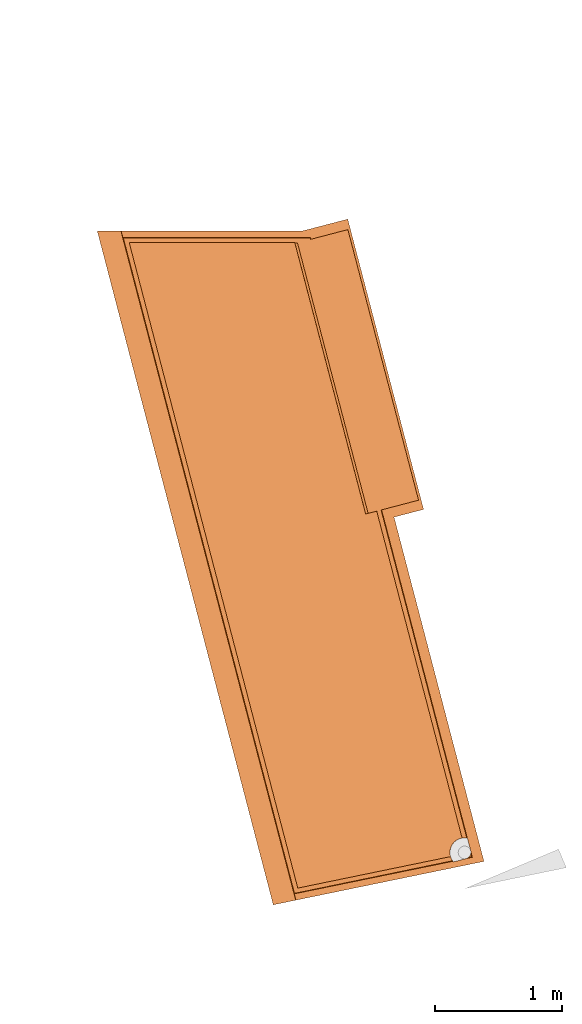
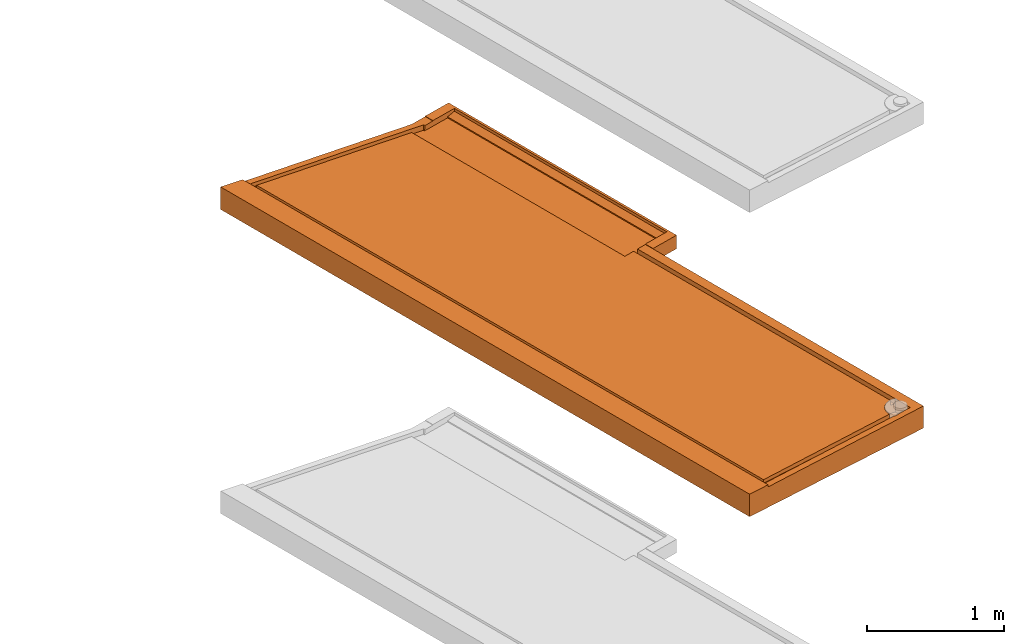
# One storey, part 20 of 31: 1 proxy, 1 element without a shape of its own.
"""IFC2X3 building model written with IfcOpenShell, lengths in centimetres."""

import ifcopenshell
import ifcopenshell.guid

model = None  # the IFC model being written
_history = None  # IfcOwnerHistory: only IFC2X3 demands one
_inside = {}  # id of a spatial element -> (the spatial element, [elements in it])
_under = {}  # id of a project, library or spatial element -> (it, [spatial elements below it])
_declared = {}  # id of a project -> (the project, [libraries it declares])
_typed = {}  # id of a type object -> (the type object, [elements of that type])
_made_of = {}  # id of a material, layer set ... -> (it, [elements and type objects made of it])


def new_model(schema):
    """Start an empty IFC model of exactly this schema.

    Asked for "IFC4X3", IfcOpenShell would pick the latest addendum, in which some entities
    have other attributes; the version numbers below select the first issue.
    IFC2X3 requires an IfcOwnerHistory on every rooted entity: one is made here for all.
    """
    global model, _history
    if schema == "IFC4X3":
        model = ifcopenshell.file(schema_version=(4, 3, 0, 0))
    else:
        model = ifcopenshell.file(schema=schema)
    _inside.clear()
    _under.clear()
    _declared.clear()
    _typed.clear()
    _made_of.clear()
    _history = None
    if model.schema == "IFC2X3":
        org = make("IfcOrganization", Name="unknown")
        user = make(
            "IfcPersonAndOrganization",
            ThePerson=make("IfcPerson", FamilyName="unknown"),
            TheOrganization=org,
        )
        app = make(
            "IfcApplication",
            ApplicationDeveloper=org,
            Version="unknown",
            ApplicationFullName="unknown",
            ApplicationIdentifier="unknown",
        )
        _history = make(
            "IfcOwnerHistory",
            OwningUser=user,
            OwningApplication=app,
            ChangeAction="ADDED",
            CreationDate=0,
        )
    return model


def make(cls, **values):
    """One entity of the class cls with the attributes given. An attribute that is None is left unset."""
    return model.create_entity(
        cls, **{name: value for name, value in values.items() if value is not None}
    )


def entity(cls, *values):
    """Any entity or typed value of the class cls, its attributes in the order of the schema. None: left unset."""
    e = model.create_entity(cls)
    for i, value in enumerate(values):
        if value is not None:
            e[i] = value
    return e


def rooted(cls, **values):
    """An entity with a GlobalId (a new one), such as an element, a storey or a relation."""
    return make(cls, GlobalId=ifcopenshell.guid.new(), OwnerHistory=_history, **values)


def si_unit(unit_type, name, prefix=None):
    """IfcSIUnit, for example si_unit("LENGTHUNIT", "METRE", prefix="MILLI")."""
    return make("IfcSIUnit", UnitType=unit_type, Prefix=prefix, Name=name)


def converted_unit(unit_type, name, factor, base, dimensions=None, offset=None):
    """IfcConversionBasedUnit, such as the inch: factor (a typed value) times the base unit."""
    return make(
        "IfcConversionBasedUnit"
        if offset is None
        else "IfcConversionBasedUnitWithOffset",
        ConversionOffset=offset,
        Dimensions=None
        if dimensions is None
        else entity("IfcDimensionalExponents", *dimensions),
        UnitType=unit_type,
        Name=name,
        ConversionFactor=make(
            "IfcMeasureWithUnit", ValueComponent=factor, UnitComponent=base
        ),
    )


def derived_unit(unit_type, elements):
    """IfcDerivedUnit: a product of units, each with its exponent."""
    return make(
        "IfcDerivedUnit",
        Elements=[
            make("IfcDerivedUnitElement", Unit=unit, Exponent=power)
            for unit, power in elements
        ],
        UnitType=unit_type,
    )


def assignment(units):
    """IfcUnitAssignment: the units of a project."""
    return None if units is None else make("IfcUnitAssignment", Units=units)


def point(xyz):
    """IfcCartesianPoint."""
    return None if xyz is None else make("IfcCartesianPoint", Coordinates=xyz)


def direction(xyz):
    """IfcDirection."""
    return None if xyz is None else make("IfcDirection", DirectionRatios=xyz)


def frame(location, z_axis=None, x_axis=None):
    """IfcAxis2Placement3D, a coordinate frame: its origin and axes. An axis left out is left unset."""
    return make(
        "IfcAxis2Placement3D",
        Location=point(location),
        Axis=direction(z_axis),
        RefDirection=direction(x_axis),
    )


def origin():
    """The frame at (0, 0, 0) with its axes left unset."""
    return frame((0.0, 0.0, 0.0))


def place(relative_to, where):
    """IfcLocalPlacement: puts the frame where relative to a parent placement (None: the world)."""
    return make(
        "IfcLocalPlacement", PlacementRelTo=relative_to, RelativePlacement=where
    )


def context(
    kind, dimensions, precision=None, world=None, true_north=None, identifier=None
):
    """IfcGeometricRepresentationContext, for example the 3D "Model" context."""
    return make(
        "IfcGeometricRepresentationContext",
        ContextIdentifier=identifier,
        ContextType=kind,
        CoordinateSpaceDimension=dimensions,
        Precision=precision,
        WorldCoordinateSystem=world,
        TrueNorth=true_north,
    )


def subcontext(parent, identifier, kind, view, scale=None):
    """IfcGeometricRepresentationSubContext, for example "Body" below "Model"."""
    return make(
        "IfcGeometricRepresentationSubContext",
        ContextIdentifier=identifier,
        ContextType=kind,
        ParentContext=parent,
        TargetScale=scale,
        TargetView=view,
    )


def project(units=None, contexts=None):
    """IfcProject with its units and contexts."""
    return rooted(
        "IfcProject",
        Name="project",
        RepresentationContexts=contexts,
        UnitsInContext=assignment(units),
    )


def spatial(cls, under=None, at=None, **own):
    """A site, building, storey or space (cls), placed at a placement, below another one or the project."""
    s = rooted(cls, ObjectPlacement=at, **own)
    if under is not None:
        _under.setdefault(under.id(), (under, []))[1].append(s)
    return s


def faces_of(points, faces, orient=None, outer=None):
    """IfcFace entities. A face is a list of loops; a loop is a list of indices into points, from 0.

    orient and outer hold one flag for each loop. By default every Orientation is true, the
    first loop of a face is its IfcFaceOuterBound and the others are IfcFaceBound.
    """
    made = []
    for i, loops in enumerate(faces):
        bounds = []
        for j, loop in enumerate(loops):
            is_outer = j == 0 if outer is None else outer[i][j]
            bounds.append(
                make(
                    "IfcFaceOuterBound" if is_outer else "IfcFaceBound",
                    Bound=make("IfcPolyLoop", Polygon=[points[k] for k in loop]),
                    Orientation=True if orient is None else orient[i][j],
                )
            )
        made.append(make("IfcFace", Bounds=bounds))
    return made


def faceted_brep(points, faces, orient=None, outer=None, voids=None):
    """IfcFacetedBrep: a solid bounded by flat faces; with voids (closed shells), ...WithVoids."""
    shared = [point(p) for p in points]
    hull = make("IfcClosedShell", CfsFaces=faces_of(shared, faces, orient, outer))
    if voids is None:
        return make("IfcFacetedBrep", Outer=hull)
    return make(
        "IfcFacetedBrepWithVoids",
        Outer=hull,
        Voids=[
            make(cls, CfsFaces=faces_of(shared, fs, o, b)) for cls, fs, o, b in voids
        ],
    )


def shape(context_of_items, identifier, shape_type, items):
    """IfcShapeRepresentation: the items that make up one representation, for example the "Body"."""
    return make(
        "IfcShapeRepresentation",
        ContextOfItems=context_of_items,
        RepresentationIdentifier=identifier,
        RepresentationType=shape_type,
        Items=items,
    )


def source(mapping_origin, context_of_items, identifier, shape_type, items):
    """IfcRepresentationMap: a shape defined once, which mapped items show again and again."""
    return make(
        "IfcRepresentationMap",
        MappingOrigin=mapping_origin,
        MappedRepresentation=shape(context_of_items, identifier, shape_type, items),
    )


def transform(
    local_origin,
    x_axis=None,
    y_axis=None,
    z_axis=None,
    scale=None,
    scale2=None,
    scale3=None,
    uniform=True,
):
    """IfcCartesianTransformationOperator3D, or its non-uniform kind. x_axis, y_axis, z_axis: its Axis1, 2, 3."""
    if uniform:
        return make(
            "IfcCartesianTransformationOperator3D",
            Axis1=direction(x_axis),
            Axis2=direction(y_axis),
            LocalOrigin=point(local_origin),
            Scale=scale,
            Axis3=direction(z_axis),
        )
    return make(
        "IfcCartesianTransformationOperator3DnonUniform",
        Axis1=direction(x_axis),
        Axis2=direction(y_axis),
        LocalOrigin=point(local_origin),
        Scale=scale,
        Axis3=direction(z_axis),
        Scale2=scale2,
        Scale3=scale3,
    )


def mapped(mapping_source, mapping_target):
    """IfcMappedItem: shows the shape of a source again, moved by a transform."""
    return make(
        "IfcMappedItem", MappingSource=mapping_source, MappingTarget=mapping_target
    )


def material(Name=None, Category=None):
    """IfcMaterial."""
    return make("IfcMaterial", Name=Name, Category=Category)


def made_of(thing, what):
    """Note that an element or type object is made of a material, layer set ...; save() writes the relation."""
    if what is not None:
        _made_of.setdefault(what.id(), (what, []))[1].append(thing)
    return thing


def type_object(cls, material=None, **own):
    """A type object (cls), such as IfcWallType, which elements share."""
    return made_of(rooted(cls, **own), material)


def type_shapes(of_type, sources):
    """Give a type object the sources (RepresentationMaps) that its elements show as mapped items."""
    of_type.RepresentationMaps = sources


def element(
    cls,
    number,
    at=None,
    inside=None,
    cuts=None,
    type_object=None,
    material=None,
    context=None,
    identifier="Body",
    shape_type=None,
    held_by="IfcProductDefinitionShape",
    body=None,
    shapes=None,
    **own,
):
    """One element of the class cls, such as IfcWall. Its Tag is "e" and its number.

    at: its placement. inside: the storey or other place that contains it. cuts: it is an
    opening in that element (IfcRelVoidsElement). A single representation is given by context,
    identifier, shape_type and body (its items); several are given by shapes. held_by: the class
    of the entity that holds the representations. save() writes the other relations.
    """
    e = rooted(cls, Tag="e%d" % number, ObjectPlacement=at, **own)
    if body is not None:
        shapes = [shape(context, identifier, shape_type, body)]
    if shapes is not None:
        e.Representation = make(held_by, Representations=shapes)
    if inside is not None:
        _inside.setdefault(inside.id(), (inside, []))[1].append(e)
    if cuts is not None:
        rooted(
            "IfcRelVoidsElement", RelatingBuildingElement=cuts, RelatedOpeningElement=e
        )
    if type_object is not None:
        _typed.setdefault(type_object.id(), (type_object, []))[1].append(e)
    return made_of(e, material)


def aggregate(whole, parts):
    """IfcRelAggregates: a whole, such as a stair, and the parts it consists of."""
    return rooted("IfcRelAggregates", RelatingObject=whole, RelatedObjects=parts)


def save(model, path):
    """Write the relations noted so far, then the file.

    IfcRelAggregates (storeys below a building ...), IfcRelContainedInSpatialStructure (elements
    in a storey), IfcRelDefinesByType, IfcRelAssociatesMaterial and IfcRelDeclares: one each for
    every whole, place, type object, material and project.
    """
    for whole, parts in _under.values():
        aggregate(whole, parts)
    for where, things in _inside.values():
        rooted(
            "IfcRelContainedInSpatialStructure",
            RelatedElements=things,
            RelatingStructure=where,
        )
    for kind, things in _typed.values():
        rooted("IfcRelDefinesByType", RelatedObjects=things, RelatingType=kind)
    for what, things in _made_of.values():
        rooted("IfcRelAssociatesMaterial", RelatedObjects=things, RelatingMaterial=what)
    for by, libraries in _declared.values():
        rooted("IfcRelDeclares", RelatingContext=by, RelatedDefinitions=libraries)
    model.write(path)


model = new_model("IFC2X3")

# Units and contexts
model_context = context("Model", 3, precision=0.001, world=origin(), true_north=direction((6.12303176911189e-17, 1.0)))
body_context = subcontext(model_context, "Body", "Model", "MODEL_VIEW")
ifc_project = project(units=[si_unit("LENGTHUNIT", "METRE", prefix="CENTI"), si_unit("AREAUNIT", "SQUARE_METRE"), si_unit("VOLUMEUNIT", "CUBIC_METRE"), converted_unit("PLANEANGLEUNIT", "DEGREE", entity("IfcRatioMeasure", 0.0174532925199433), si_unit("PLANEANGLEUNIT", "RADIAN"), dimensions=[0, 0, 0, 0, 0, 0, 0]), si_unit("MASSUNIT", "GRAM", prefix="KILO"), derived_unit("MASSDENSITYUNIT", [(si_unit("MASSUNIT", "GRAM", prefix="KILO"), 1), (si_unit("LENGTHUNIT", "METRE"), -3)]), si_unit("TIMEUNIT", "SECOND"), si_unit("FREQUENCYUNIT", "HERTZ"), si_unit("THERMODYNAMICTEMPERATUREUNIT", "DEGREE_CELSIUS"), derived_unit("THERMALTRANSMITTANCEUNIT", [(si_unit("MASSUNIT", "GRAM", prefix="KILO"), 1), (si_unit("THERMODYNAMICTEMPERATUREUNIT", "KELVIN"), -1), (si_unit("TIMEUNIT", "SECOND"), -3)]), derived_unit("VOLUMETRICFLOWRATEUNIT", [(si_unit("LENGTHUNIT", "METRE"), 3), (si_unit("TIMEUNIT", "SECOND"), -1)]), si_unit("ELECTRICCURRENTUNIT", "AMPERE"), si_unit("ELECTRICVOLTAGEUNIT", "VOLT"), si_unit("POWERUNIT", "WATT"), si_unit("FORCEUNIT", "NEWTON"), si_unit("ILLUMINANCEUNIT", "LUX"), si_unit("LUMINOUSFLUXUNIT", "LUMEN"), si_unit("LUMINOUSINTENSITYUNIT", "CANDELA"), derived_unit("USERDEFINED", [(si_unit("MASSUNIT", "GRAM", prefix="KILO"), -1), (si_unit("LENGTHUNIT", "METRE"), -2), (si_unit("TIMEUNIT", "SECOND"), 3), (si_unit("LUMINOUSFLUXUNIT", "LUMEN"), 1)]), derived_unit("LINEARVELOCITYUNIT", [(si_unit("LENGTHUNIT", "METRE"), 1), (si_unit("TIMEUNIT", "SECOND"), -1)]), si_unit("PRESSUREUNIT", "PASCAL"), derived_unit("USERDEFINED", [(si_unit("LENGTHUNIT", "METRE"), -2), (si_unit("MASSUNIT", "GRAM", prefix="KILO"), 1), (si_unit("TIMEUNIT", "SECOND"), -2)])], contexts=[model_context])

# Site, building, storey
site_placement = place(None, origin())
site = spatial("IfcSite", under=ifc_project, at=site_placement, Name="Default", CompositionType="ELEMENT")
building_placement = place(site_placement, origin())
building = spatial("IfcBuilding", under=site, at=building_placement, Name="CAGE 03", CompositionType="ELEMENT")
storey_placement = place(building_placement, frame((0.0, 0.0, -400.0)))
storey = spatial("IfcBuildingStorey", under=building, at=storey_placement, Name="±0.00", CompositionType="ELEMENT", Elevation=-400.0)

# Assembly, proxy
assembly_placement = place(storey_placement, origin())
assembly = element("IfcElementAssembly", 1, at=assembly_placement, inside=storey, Name="Assemblage Modèles génériques:BALCON TYPE 08", ObjectType="Assemblage Modèles génériques:BALCON TYPE 08", AssemblyPlace="NOTDEFINED", PredefinedType="USERDEFINED")
ifc_material = material(Name="Béton, panneaux préfa 30/37")
building_element_proxy_type = type_object("IfcBuildingElementProxyType", Name="balcon préfa type 08", PredefinedType="NOTDEFINED", material=ifc_material)
shared_shape = source(origin(), body_context, "Body", "Brep", [
    faceted_brep([(20.4758153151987, 524.485602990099, 15.0), (155.098310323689, 8.99505016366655, 15.0), (279.438582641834, 34.6220777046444, 15.0), (278.50602837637, 36.2117170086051, 15.0), (277.839385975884, 37.9299132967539, 15.0), (157.690873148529, 13.1668241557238, 15.0), (25.0882306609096, 520.923046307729, 15.0), (155.314060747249, 520.923046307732, 15.0), (155.482713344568, 520.277249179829, 15.0), (157.417813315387, 520.78260855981, 15.0), (213.007345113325, 307.921611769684, 15.0), (219.780195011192, 309.690369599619, 15.0), (286.932279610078, 52.5545528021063, 15.0), (288.768321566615, 52.7168337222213, 15.0), (290.606706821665, 52.5836991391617, 15.0), (223.22714667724, 310.590555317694, 15.0), (245.904044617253, 316.512721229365, 15.0), (190.314512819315, 529.373718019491, 15.0), (167.637614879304, 523.45155210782, 15.0), (167.367568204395, 524.485602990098, 15.0), (293.790835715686, 40.3911724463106, 15.0), (293.414285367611, 39.1546032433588, 15.0), (292.733315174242, 38.0558889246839, 15.0), (291.793438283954, 37.1684628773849, 15.0), (294.487454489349, 37.7237103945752, 15.0), (155.508647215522, 520.284021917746, 16.9000788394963), (155.484457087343, 520.277704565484, 19.3999538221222), (211.073988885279, 307.416707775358, 19.3999538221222), (211.09817901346, 307.42302512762, 16.9000788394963), (245.904044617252, 316.512721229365, 15.9713250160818), (223.610570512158, 310.690688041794, 19.5295380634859), (229.455694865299, 312.217166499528, 19.589956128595), (231.390794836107, 312.722525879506, 19.6099582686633), (231.390794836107, 312.722525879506, 20.0), (252.676894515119, 318.2814790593, 20.0), (252.676894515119, 318.2814790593, 17.4999999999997), (219.78019501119, 309.690369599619, 19.4899454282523), (213.007345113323, 307.921611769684, 16.9198129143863), (197.087362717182, 531.142475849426, 17.4999999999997), (197.087362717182, 531.142475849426, 20.0), (175.801263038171, 525.583522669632, 20.0), (175.801263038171, 525.583522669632, 19.6099582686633), (173.866163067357, 525.078163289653, 19.5899561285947), (168.021038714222, 523.551684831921, 19.5295380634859), (190.314512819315, 529.373718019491, 15.9713250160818), (157.690873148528, 13.1668241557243, 18.1398009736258), (277.83938597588, 37.9299132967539, 19.3650002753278), (291.500713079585, 36.9717037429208, 16.5272701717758), (291.194845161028, 36.7960705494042, 17.7877166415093), (290.877356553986, 36.6424372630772, 18.7750673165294), (290.549827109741, 36.5115683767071, 19.4844090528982), (294.976378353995, 37.4198670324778, 19.5295380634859), (154.900847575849, 8.67730667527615, 18.1014578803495), (279.685784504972, 34.2823396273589, 19.3736493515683), (279.560631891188, 34.4510796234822, 17.1958838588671), (3.88407743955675, 526.923046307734, 0.0), (3.88407743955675, 526.923046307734, 1.0), (140.574776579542, 3.51301694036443, 1.0), (140.574776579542, 3.51301694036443, 0.0), (5.1787699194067, 525.923046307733, 1.46630765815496), (141.302501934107, 4.68402258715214, 1.46630765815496), (157.417813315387, 520.78260855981, 16.9198129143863), (20.1245103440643, 524.756945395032, 18.1014578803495), (18.7753616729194, 529.923046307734, 18.1014578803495), (18.6036900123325, 529.923046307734, 20.0), (156.045092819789, 3.63845538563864, 20.0), (156.207996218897, 3.67203042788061, 18.1014578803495), (5.1787699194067, 525.923046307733, 0.0), (141.302501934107, 4.68402258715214, 0.0), (0.0, 529.923046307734, 20.0), (0.0, 529.923046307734, 0.0), (138.391600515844, 0.0, 0.0), (138.391600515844, 0.0, 20.0), (286.932279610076, 52.5545528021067, 19.4899454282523), (173.779825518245, 533.32392255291, 20.0), (174.406824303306, 530.923046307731, 20.0), (233.412232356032, 304.982125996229, 20.0), (248.893032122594, 309.025001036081, 20.0), (256.633432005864, 311.046438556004, 20.0), (197.001025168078, 539.388235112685, 20.0), (189.260625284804, 537.366797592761, 20.0), (197.001025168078, 539.388235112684, 8.0), (256.633432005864, 311.046438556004, 8.0), (189.260625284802, 537.36679759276, 8.0), (248.893032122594, 309.025001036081, 8.0), (233.412232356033, 304.982125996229, 8.0), (174.406824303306, 530.923046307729, 8.0), (173.779825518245, 533.32392255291, 8.0), (233.412232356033, 304.982125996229, 19.6099582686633), (304.138278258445, 34.1610533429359, 19.6099582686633), (304.138278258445, 34.1610533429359, 0.0), (303.379205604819, 37.0676610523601, 0.0), (303.379205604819, 37.0676610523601, 1.0), (303.126181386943, 38.0365302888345, 1.46630765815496), (303.126181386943, 38.0365302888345, 0.0), (174.790544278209, 529.453722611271, 0.0), (174.790544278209, 529.453722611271, 1.46630765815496), (174.537864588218, 530.421272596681, 1.0), (174.537864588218, 530.421272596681, 0.0), (174.406824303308, 530.923046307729, 0.0), (173.779825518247, 533.32392255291, 0.0), (172.602764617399, 529.915913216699, 0.0), (161.142609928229, 526.923046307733, 0.0), (301.417706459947, 36.6633882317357, 0.0), (302.176779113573, 33.7567805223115, 0.0), (160.75733937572, 529.923046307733, 0.0), (287.596140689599, 46.0549454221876, 0.0), (172.85544430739, 528.94836323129, 0.0), (288.891291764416, 46.2170946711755, 0.0), (290.184278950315, 46.0385090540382, 0.0), (291.386987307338, 45.531358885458, 0.0), (292.417454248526, 44.7302056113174, 0.0), (293.205455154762, 43.689646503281, 0.0), (293.69728906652, 42.4805939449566, 0.0), (301.164682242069, 37.6322574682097, 0.0), (293.859438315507, 41.1854428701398, 0.0), (293.680852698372, 39.8924556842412, 0.0), (293.17370252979, 38.6897473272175, 0.0), (292.372549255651, 37.6592803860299, 0.0), (291.331990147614, 36.8712794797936, 0.0), (290.12293758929, 36.3794455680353, 0.0), (288.827786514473, 36.2172963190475, 0.0), (287.534799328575, 36.3958819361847, 0.0), (286.332090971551, 36.9030321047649, 0.0), (285.301624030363, 37.7041853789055, 0.0), (284.513623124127, 38.7447444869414, 0.0), (284.021789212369, 39.9537970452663, 0.0), (283.859639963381, 41.2489481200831, 0.0), (284.038225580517, 42.5419353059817, 0.0), (284.545375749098, 43.7446436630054, 0.0), (285.346529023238, 44.775110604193, 0.0), (286.387088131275, 45.5631115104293, 0.0), (161.271033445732, 525.923046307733, 0.0), (25.0882306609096, 520.923046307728, 18.1398009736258), (277.372859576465, 40.6638487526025, 19.3673947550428), (277.574432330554, 43.4299684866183, 19.3763354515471), (278.432380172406, 46.0673868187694, 19.3913023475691), (279.896802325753, 48.4227037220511, 19.4114249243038), (281.8825236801, 50.3589270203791, 19.4355327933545), (284.274048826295, 51.7634402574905, 19.4622237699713), (155.314060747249, 520.923046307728, 19.3999357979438), (167.673651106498, 524.881886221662, 19.5295380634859), (174.406824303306, 530.923046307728, 19.6099582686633), (173.779825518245, 533.32392255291, 19.6099582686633), (160.75733937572, 529.923046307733, 19.4753514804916), (291.035678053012, 52.5094237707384, 19.5295380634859), (291.058092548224, 52.5050811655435, 19.5297439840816), (291.080498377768, 52.5006940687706, 19.5299497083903), (293.69728906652, 42.4805939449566, 19.5299497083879), (293.768377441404, 42.1676198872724, 19.5298466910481), (293.819240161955, 41.8507298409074, 19.5295380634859), (290.337859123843, 36.4407355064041, 19.4821789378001), (290.122937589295, 36.3794455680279, 19.4799443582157), (280.102837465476, 33.7626548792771, 19.3763717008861), (279.89054622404, 34.0194759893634, 19.3749664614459), (302.176779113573, 33.7567805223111, 19.589956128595), (290.714125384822, 52.5661453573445, 16.1372598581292), (290.821543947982, 52.5485915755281, 17.274519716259), (290.928611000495, 52.5290076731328, 18.4020288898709), (290.982144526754, 52.5192157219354, 18.9657834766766), (291.008911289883, 52.5143197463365, 19.2476607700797), (293.852306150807, 41.4860403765, 18.8419447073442), (293.858592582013, 41.1199089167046, 17.8540276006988), (293.838065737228, 40.7542992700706, 16.5710856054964), (301.417706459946, 36.6633882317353, 1.0), (301.164682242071, 37.6322574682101, 1.46630765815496), (161.142609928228, 526.923046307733, 1.0), (161.271033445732, 525.923046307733, 1.46630765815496), (172.602764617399, 529.9159132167, 1.0), (172.85544430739, 528.94836323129, 1.46630765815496), (288.253873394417, 52.7012352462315, 7.69999999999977), (285.464023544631, 52.2044824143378, 7.69999999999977), (282.88034440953, 51.0405976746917, 7.69999999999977), (280.659713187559, 49.2802503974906, 7.69999999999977), (278.936963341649, 47.0303262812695, 7.69999999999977), (277.816697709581, 44.427437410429, 7.69999999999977), (277.366937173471, 41.6296273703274, 7.69999999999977), (277.614990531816, 38.8067750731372, 7.69999999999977), (278.545796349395, 36.1302799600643, 7.69999999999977), (280.102837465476, 33.7626548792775, 7.69999999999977), (290.12293758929, 36.3794455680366, 7.69999999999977), (288.827786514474, 36.217296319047, 7.69999999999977), (287.534799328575, 36.395881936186, 7.69999999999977), (286.332090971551, 36.9030321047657, 7.69999999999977), (285.301624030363, 37.7041853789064, 7.69999999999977), (284.513623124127, 38.7447444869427, 7.69999999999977), (284.021789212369, 39.9537970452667, 7.69999999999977), (283.859639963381, 41.2489481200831, 7.69999999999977), (284.038225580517, 42.5419353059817, 7.69999999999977), (284.545375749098, 43.7446436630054, 7.69999999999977), (285.34652902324, 44.775110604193, 7.69999999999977), (286.387088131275, 45.563111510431, 7.69999999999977), (287.5961406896, 46.0549454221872, 7.69999999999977), (288.891291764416, 46.2170946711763, 7.69999999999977), (290.184278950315, 46.0385090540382, 7.69999999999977), (291.38698730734, 45.5313588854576, 7.69999999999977), (292.417454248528, 44.7302056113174, 7.69999999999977), (293.205455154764, 43.689646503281, 7.69999999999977), (293.697289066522, 42.4805939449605, 7.69999999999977), (291.080498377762, 52.5006940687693, 7.69999999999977), (291.080498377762, 52.5006940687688, 19.1602585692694), (291.080498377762, 52.5006940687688, 18.7905743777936), (291.080498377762, 52.5006940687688, 18.0512059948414), (291.080498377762, 52.5006940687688, 16.5724622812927), (291.080498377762, 52.5006940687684, 15.093718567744), (291.080498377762, 52.5006940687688, 13.614974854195), (280.102837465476, 33.7626548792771, 16.4572787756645), (280.102837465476, 33.7626548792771, 13.5381858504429)], [[[0, 1, 2, 3, 4, 5, 6, 7, 8, 9, 10, 11, 12, 13, 14, 15, 16, 17, 18, 19]], [[20, 21, 22, 23, 24]], [[25, 26, 27, 28]], [[29, 16, 15, 30, 31, 32, 33, 34, 35]], [[36, 11, 10, 37, 28, 27]], [[38, 39, 40, 41, 42, 43, 18, 17, 44]], [[45, 5, 4, 46]], [[23, 47, 48, 49, 50, 51, 24]], [[1, 52, 53, 54, 2]], [[55, 56, 57, 58]], [[59, 60, 57, 56]], [[9, 61, 37, 10]], [[52, 1, 0, 62, 63, 64, 65, 66]], [[59, 67, 68, 60]], [[69, 70, 71, 72]], [[73, 12, 11, 36]], [[38, 44, 29, 35]], [[44, 17, 16, 29]], [[39, 38, 35, 34]], [[74, 75, 40, 39, 34, 33, 76, 77, 78, 79, 80]], [[72, 65, 64, 69]], [[81, 79, 78, 82]], [[83, 81, 82, 84, 85, 86, 87]], [[87, 86, 85, 88, 89, 90, 91, 92, 93, 94, 95, 96, 97, 98, 99, 100]], [[101, 102, 55, 58, 103, 91, 90, 104, 71, 70, 105, 100, 99, 98]], [[101, 100, 99]], [[101, 99, 98]], [[101, 105, 100]], [[102, 105, 101]], [[55, 105, 102]], [[55, 70, 105]], [[70, 55, 71]], [[58, 71, 55]], [[58, 104, 71]], [[104, 58, 103]], [[91, 104, 103]], [[91, 90, 104]], [[95, 106, 107]], [[106, 95, 108]], [[109, 108, 95]], [[110, 109, 95]], [[110, 95, 94]], [[94, 111, 110]], [[112, 111, 94]], [[113, 112, 94]], [[114, 113, 94]], [[115, 113, 114]], [[115, 114, 116]], [[114, 117, 116]], [[118, 117, 114]], [[114, 119, 118]], [[120, 119, 114]], [[120, 114, 121]], [[114, 68, 121]], [[122, 121, 68]], [[123, 122, 68]], [[124, 123, 68]], [[124, 68, 125]], [[126, 125, 68]], [[68, 127, 126]], [[127, 68, 128]], [[129, 128, 68]], [[129, 68, 130]], [[130, 68, 131]], [[68, 132, 131]], [[132, 68, 67]], [[107, 106, 132]], [[131, 132, 106]], [[133, 45, 46, 134, 135, 136, 137, 138, 139, 73, 36, 27, 26, 140]], [[63, 62, 141, 43, 42, 41, 142, 143, 144]], [[88, 32, 31, 30, 145, 146, 147, 148, 149, 150, 51, 50, 151, 152, 153, 154, 53, 52, 66, 155, 89]], [[61, 25, 28, 37]], [[133, 6, 5, 45]], [[14, 156, 157, 158, 159, 160, 145, 30, 15]], [[43, 141, 19, 18]], [[51, 150, 161, 162, 163, 20, 24]], [[69, 64, 63, 144, 105, 70]], [[90, 89, 155, 66, 65, 72, 71, 104]], [[76, 33, 32, 88]], [[75, 74, 143, 142, 41, 40]], [[80, 79, 81, 83, 87, 100, 105, 144, 143, 74]], [[91, 103, 58, 57, 164, 92]], [[165, 60, 68, 114, 94, 93]], [[164, 57, 60, 165, 93, 92]], [[102, 166, 56, 55]], [[167, 132, 67, 59]], [[166, 167, 59, 56]], [[168, 166, 102, 101, 98, 97]], [[107, 132, 167, 169, 96, 95]], [[166, 168, 97, 96, 169, 167]], [[7, 6, 133, 140]], [[141, 62, 0, 19]], [[8, 140, 26]], [[140, 8, 7]], [[9, 8, 26, 25, 61]], [[77, 76, 88, 85, 84, 82, 78]], [[170, 171, 172, 173, 174, 175, 176, 177, 178, 179, 180, 181, 182, 183, 184, 185, 186, 187, 188, 189, 190, 191, 192, 193, 194, 195, 196, 197, 198, 199]], [[148, 147, 200, 201, 202, 203, 204, 205, 199, 198]], [[13, 170, 199]], [[146, 145, 160]], [[13, 205, 14]], [[13, 12, 170]], [[156, 203, 157]], [[172, 171, 139]], [[171, 12, 139]], [[170, 12, 171]], [[138, 173, 172]], [[201, 200, 159]], [[201, 158, 202]], [[205, 13, 199]], [[138, 172, 139]], [[139, 12, 73]], [[138, 137, 173]], [[160, 159, 200]], [[137, 174, 173]], [[175, 135, 176]], [[174, 136, 175]], [[177, 176, 134]], [[2, 178, 3]], [[203, 202, 157]], [[178, 4, 3]], [[2, 179, 178]], [[177, 4, 178]], [[134, 4, 177]], [[14, 204, 156]], [[46, 4, 134]], [[160, 200, 146]], [[135, 175, 136]], [[54, 206, 2]], [[134, 176, 135]], [[207, 179, 2, 206]], [[158, 157, 202]], [[54, 53, 154]], [[206, 54, 154]], [[203, 156, 204]], [[206, 154, 153]], [[147, 146, 200]], [[14, 205, 204]], [[159, 158, 201]], [[137, 136, 174]], [[180, 179, 207, 206, 153, 152]], [[111, 112, 197, 196]], [[111, 196, 195, 110]], [[108, 109, 194, 193]], [[195, 194, 109, 110]], [[106, 108, 193, 192]], [[113, 198, 197, 112]], [[130, 131, 191, 190]], [[130, 190, 189, 129]], [[127, 128, 188, 187]], [[189, 188, 128, 129]], [[126, 127, 187, 186]], [[192, 191, 131, 106]], [[125, 185, 184, 124]], [[126, 186, 185, 125]], [[121, 122, 182, 181]], [[123, 124, 184, 183]], [[123, 183, 182, 122]], [[181, 180, 120, 121]], [[50, 49, 180]], [[180, 49, 48]], [[152, 151, 180]], [[50, 180, 151]], [[119, 120, 180]], [[23, 118, 119]], [[118, 23, 22]], [[22, 117, 118]], [[47, 23, 119]], [[198, 113, 115]], [[116, 117, 21]], [[116, 20, 115]], [[22, 21, 117]], [[115, 161, 198]], [[116, 21, 20]], [[119, 48, 47]], [[20, 163, 115]], [[161, 115, 162]], [[161, 150, 198]], [[162, 115, 163]], [[150, 149, 198]], [[198, 149, 148]], [[180, 48, 119]]]),
])
type_shapes(building_element_proxy_type, [shared_shape])
proxy_placement = place(assembly_placement, frame((10497.2854867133, 3265.73761976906, 1530.0)))
proxy = element("IfcBuildingElementProxy", 2, at=proxy_placement, type_object=building_element_proxy_type, material=ifc_material, Name="BY_STR_Balcon_préfa_08:balcon préfa type 08", ObjectType="balcon préfa type 08", context=body_context, shape_type="MappedRepresentation", body=[
    mapped(shared_shape, transform((0.0, 0.0, 0.0), scale=1.0)),
])
aggregate(assembly, [proxy])

save(model, "model.ifc")
